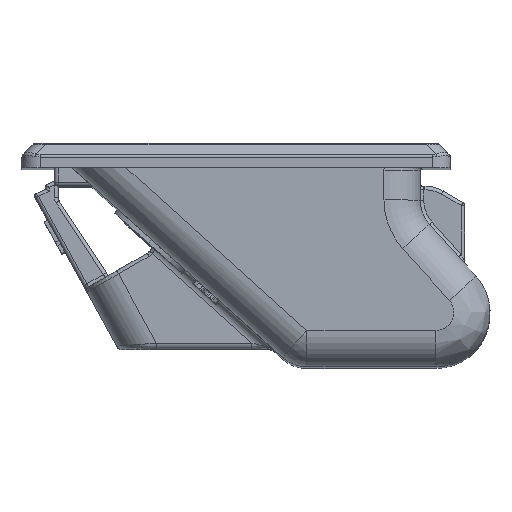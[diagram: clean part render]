
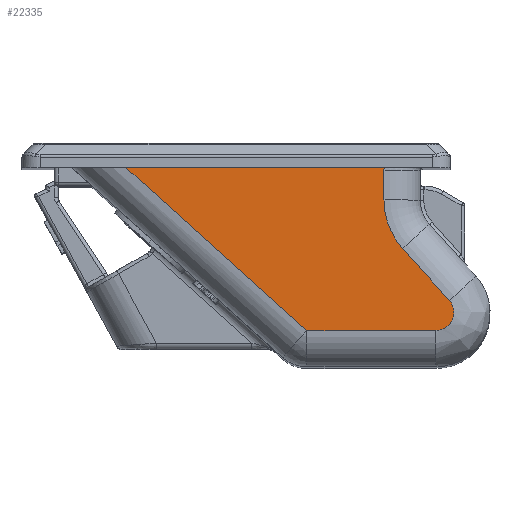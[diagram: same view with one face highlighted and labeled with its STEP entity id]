
A CAD part, top view. The second image highlights one B-rep face of the part: STEP entity #22335.
In plain terms, the highlighted planar face has unit normal (0, 0, 1).
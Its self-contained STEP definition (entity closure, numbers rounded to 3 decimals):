
#2190=DIRECTION('',(-1.,0.,0.));
#2191=VECTOR('',#2190,21.391);
#2192=CARTESIAN_POINT('',(18.877,4.336,43.4));
#2193=LINE('',#2192,#2191);
#3466=DIRECTION('',(-1.,0.,0.));
#3467=VECTOR('',#3466,10.691);
#3468=CARTESIAN_POINT('',(23.171,-9.164,43.4));
#3469=LINE('',#3468,#3467);
#4799=DIRECTION('',(0.743,-0.669,0.));
#4800=VECTOR('',#4799,20.175);
#4801=CARTESIAN_POINT('',(-2.513,4.336,43.4));
#4802=LINE('',#4801,#4800);
#4803=CARTESIAN_POINT('',(22.071,4.136,43.4));
#4804=DIRECTION('',(0.,0.,-1.));
#4805=DIRECTION('',(-1.,0.,0.));
#4806=AXIS2_PLACEMENT_3D('',#4803,#4804,#4805);
#4808=CARTESIAN_POINT('',(24.871,1.657,43.4));
#4809=DIRECTION('',(0.,0.,-1.));
#4810=DIRECTION('',(-0.743,-0.669,0.));
#4811=AXIS2_PLACEMENT_3D('',#4808,#4809,#4810);
#4813=DIRECTION('',(-0.669,0.743,0.));
#4814=VECTOR('',#4813,5.789);
#4815=CARTESIAN_POINT('',(24.286,-6.66,43.4));
#4816=LINE('',#4815,#4814);
#4817=CARTESIAN_POINT('',(23.171,-7.664,43.4));
#4818=DIRECTION('',(0.,0.,1.));
#4819=DIRECTION('',(0.,-1.,0.));
#4820=AXIS2_PLACEMENT_3D('',#4817,#4818,#4819);
#4889=DIRECTION('',(0.,-1.,0.));
#4890=VECTOR('',#4889,2.479);
#4891=CARTESIAN_POINT('',(18.871,4.136,43.4));
#4892=LINE('',#4891,#4890);
#14187=CARTESIAN_POINT('',(18.871,1.657,43.4));
#14189=VERTEX_POINT('',#14187);
#14192=CARTESIAN_POINT('',(18.871,4.136,43.4));
#14194=VERTEX_POINT('',#14192);
#14196=CARTESIAN_POINT('',(20.412,-2.358,
43.4));
#14198=VERTEX_POINT('',#14196);
#14199=CARTESIAN_POINT('',(24.286,-6.66,
43.4));
#14201=VERTEX_POINT('',#14199);
#14204=CARTESIAN_POINT('',(23.171,-9.164,
43.4));
#14206=VERTEX_POINT('',#14204);
#14207=CARTESIAN_POINT('',(12.48,-9.164,43.4));
#14209=VERTEX_POINT('',#14207);
#14638=CARTESIAN_POINT('',(18.877,4.336,43.4));
#14639=VERTEX_POINT('',#14638);
#14654=CARTESIAN_POINT('',(-2.513,4.336,
43.4));
#14655=VERTEX_POINT('',#14654);
#22317=CARTESIAN_POINT('',(11.08,-2.414,43.4));
#22318=DIRECTION('',(0.,0.,1.));
#22319=DIRECTION('',(0.,1.,0.));
#22320=AXIS2_PLACEMENT_3D('',#22317,#22318,#22319);
#22321=PLANE('',#22320);
#22323=ORIENTED_EDGE('',*,*,#22322,.F.);
#22324=ORIENTED_EDGE('',*,*,#17918,.F.);
#22326=ORIENTED_EDGE('',*,*,#22325,.F.);
#22328=ORIENTED_EDGE('',*,*,#22327,.T.);
#22329=ORIENTED_EDGE('',*,*,#22270,.F.);
#22330=ORIENTED_EDGE('',*,*,#22286,.F.);
#22331=ORIENTED_EDGE('',*,*,#22310,.F.);
#22332=ORIENTED_EDGE('',*,*,#20489,.T.);
#22333=EDGE_LOOP('',(#22323,#22324,#22326,#22328,#22329,#22330,#22331,#22332));
#22334=FACE_OUTER_BOUND('',#22333,.F.);
#22335=ADVANCED_FACE('',(#22334),#22321,.T.);
#4807=CIRCLE('',#4806,3.2);
#4812=CIRCLE('',#4811,6.);
#4821=CIRCLE('',#4820,1.5);
#17918=EDGE_CURVE('',#14639,#14655,#2193,.T.);
#20489=EDGE_CURVE('',#14206,#14209,#3469,.T.);
#22270=EDGE_CURVE('',#14198,#14189,#4812,.T.);
#22286=EDGE_CURVE('',#14201,#14198,#4816,.T.);
#22310=EDGE_CURVE('',#14206,#14201,#4821,.T.);
#22322=EDGE_CURVE('',#14655,#14209,#4802,.T.);
#22325=EDGE_CURVE('',#14194,#14639,#4807,.T.);
#22327=EDGE_CURVE('',#14194,#14189,#4892,.T.);
